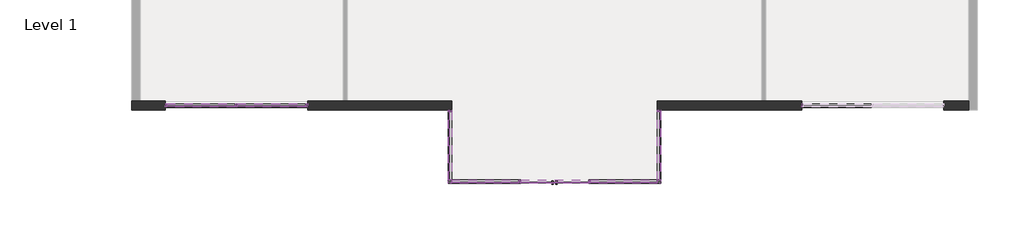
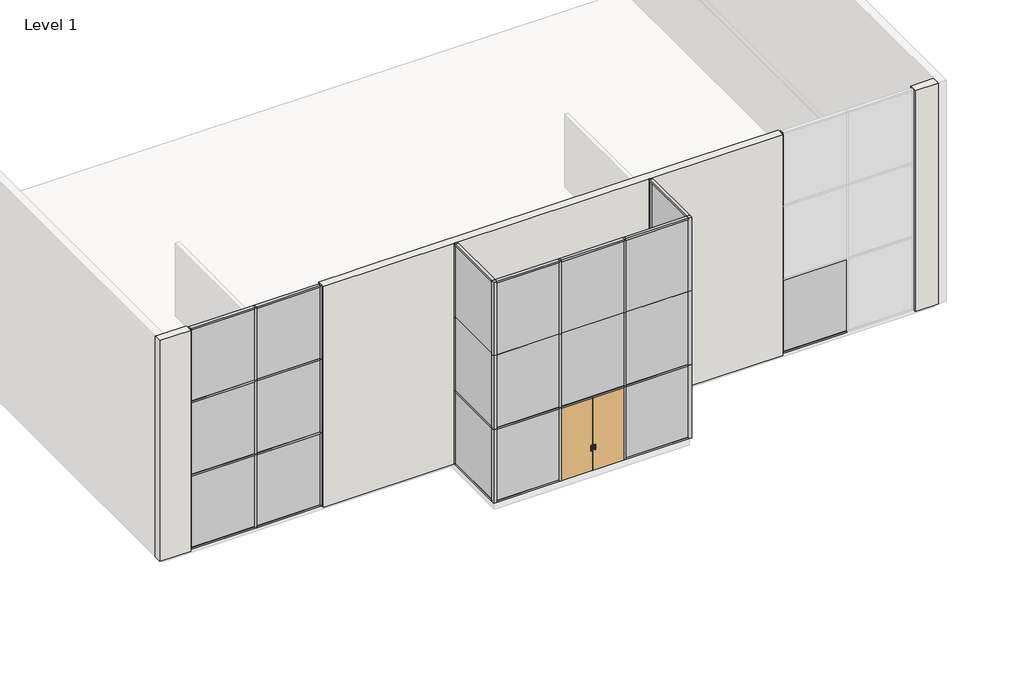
# One storey, part 1 of 3: 53 members, 21 plates, 1 door, 1 wall.
"""IFC4 building model written with IfcOpenShell, lengths in millimetres."""

from ifc_helpers import new_model, si_unit, origin, place, context, project, spatial, faceted_brep, transform, mapped, element, save
from components import m_curtain_wall_dbl_glass_m_curtain_wall_dbl_glass_65589565, member_092dde94, member_3b285806, member_887e70fb, member_3f395ae9, member_eaba9652, member_bd5c9510, member_6d1da0dd, member_11ed7e2d, member_605e1044, member_b6766b59, member_5ef46571, system_panel_glazed_dec8f576, system_panel_glazed_a2b5a2cd, system_panel_glazed_4b2e8b6a, system_panel_glazed_935986ee, system_panel_glazed_54eba105, system_panel_glazed_5724f4ed, system_panel_glazed_d0cb5eef, system_panel_glazed_25cc98ba, system_panel_glazed_d8e6d469, system_panel_glazed_b25d086d, system_panel_glazed_057324e0

model = new_model("IFC4")

# Units and contexts
model_context = context("Model", 3, world=origin())
ifc_project = project(units=[si_unit("LENGTHUNIT", "METRE", prefix="MILLI")], contexts=[model_context])

# Site, building, storey
site = spatial("IfcSite", under=ifc_project)
building = spatial("IfcBuilding", under=site)
storey = spatial("IfcBuildingStorey", under=building, Name="Level 1", Elevation=0.0)

# Door
placement = place(None, origin())
m_curtain_wall_dbl_glass_m_curtain_wall_dbl_glass_shape = m_curtain_wall_dbl_glass_m_curtain_wall_dbl_glass_65589565(model_context)
element("IfcDoor", 1, ObjectType="M_Curtain Wall Dbl Glass : M_Curtain Wall Dbl Glass", at=placement, inside=storey, context=model_context, shape_type="MappedRepresentation", body=[
    mapped(m_curtain_wall_dbl_glass_m_curtain_wall_dbl_glass_shape, transform((-3088.917382, -8357.3516396, 0.0), x_axis=(-1.0, 0.0, 0.0), y_axis=(0.0, -1.0, 0.0), z_axis=(0.0, 0.0, 1.0))),
])

# Members
member_shape = member_092dde94(model_context)
element("IfcMember", 2, ObjectType="Quad Corner Mullion : 5\" x 5\" Quad Corner", at=placement, inside=storey, context=model_context, shape_type="MappedRepresentation", body=[
    mapped(member_shape, transform((-6898.917382, -8357.3516396, 0.0), x_axis=(-1.0, 0.0, 0.0), y_axis=(0.0, 1.0, 0.0), z_axis=(0.0, 0.0, -1.0))),
])
element("IfcMember", 3, ObjectType="Quad Corner Mullion : 5\" x 5\" Quad Corner", at=placement, inside=storey, context=model_context, shape_type="MappedRepresentation", body=[
    mapped(member_shape, transform((721.082618, -8357.3516396, 3048.0), x_axis=(1.0, 0.0, 0.0), y_axis=(0.0, 1.0, 0.0), z_axis=(0.0, 0.0, 1.0))),
])
element("IfcMember", 4, ObjectType="Quad Corner Mullion : 5\" x 5\" Quad Corner", at=placement, inside=storey, context=model_context, shape_type="MappedRepresentation", body=[
    mapped(member_shape, transform((721.082618, -8357.3516396, 9144.0), x_axis=(1.0, 0.0, 0.0), y_axis=(0.0, 1.0, 0.0), z_axis=(0.0, 0.0, 1.0))),
])
element("IfcMember", 5, ObjectType="Quad Corner Mullion : 5\" x 5\" Quad Corner", at=placement, inside=storey, context=model_context, shape_type="MappedRepresentation", body=[
    mapped(member_shape, transform((-6898.917382, -8357.3516396, 3048.0), x_axis=(-1.0, 0.0, 0.0), y_axis=(0.0, 1.0, 0.0), z_axis=(0.0, 0.0, -1.0))),
])
element("IfcMember", 6, ObjectType="Quad Corner Mullion : 5\" x 5\" Quad Corner", at=placement, inside=storey, context=model_context, shape_type="MappedRepresentation", body=[
    mapped(member_shape, transform((721.082618, -8357.3516396, 6096.0), x_axis=(1.0, 0.0, 0.0), y_axis=(0.0, 1.0, 0.0), z_axis=(0.0, 0.0, 1.0))),
])
element("IfcMember", 7, ObjectType="Quad Corner Mullion : 5\" x 5\" Quad Corner", at=placement, inside=storey, context=model_context, shape_type="MappedRepresentation", body=[
    mapped(member_shape, transform((-6898.917382, -8357.3516396, 6096.0), x_axis=(-1.0, 0.0, 0.0), y_axis=(0.0, 1.0, 0.0), z_axis=(0.0, 0.0, -1.0))),
])
member_2_shape = member_3b285806(model_context)
element("IfcMember", 8, ObjectType="Rectangular Mullion : 2.5\" x 5\" rectangular", at=placement, inside=storey, context=model_context, shape_type="MappedRepresentation", body=[
    mapped(member_2_shape, transform((-6835.417382, -8357.3516396, 9144.0), x_axis=(0.0, 0.0, 1.0), y_axis=(0.0, 1.0, 0.0), z_axis=(-1.0, 0.0, 0.0))),
])
element("IfcMember", 9, ObjectType="Rectangular Mullion : 2.5\" x 5\" rectangular", at=placement, inside=storey, context=model_context, shape_type="MappedRepresentation", body=[
    mapped(member_2_shape, transform((-1787.1673821, -8357.3516396, 9144.0), x_axis=(0.0, 0.0, 1.0), y_axis=(0.0, 1.0, 0.0), z_axis=(-1.0, 0.0, 0.0))),
])
element("IfcMember", 10, ObjectType="Rectangular Mullion : 2.5\" x 5\" rectangular", at=placement, inside=storey, context=model_context, shape_type="MappedRepresentation", body=[
    mapped(member_2_shape, transform((657.582618, -8357.3516396, 0.0), x_axis=(0.0, 0.0, -1.0), y_axis=(0.0, 1.0, 0.0), z_axis=(1.0, 0.0, 0.0))),
])
element("IfcMember", 11, ObjectType="Rectangular Mullion : 2.5\" x 5\" rectangular", at=placement, inside=storey, context=model_context, shape_type="MappedRepresentation", body=[
    mapped(member_2_shape, transform((-4390.6673819, -8357.3516396, 0.0), x_axis=(0.0, 0.0, -1.0), y_axis=(0.0, 1.0, 0.0), z_axis=(1.0, 0.0, 0.0))),
])
member_3_shape = member_887e70fb(model_context)
element("IfcMember", 12, ObjectType="Rectangular Mullion : 2.5\" x 5\" rectangular", at=placement, inside=storey, context=model_context, shape_type="MappedRepresentation", body=[
    mapped(member_3_shape, transform((-4327.1673819, -8357.3516396, 9144.0), x_axis=(0.0, 0.0, 1.0), y_axis=(0.0, 1.0, 0.0), z_axis=(-1.0, 0.0, 0.0))),
])
member_4_shape = member_3f395ae9(model_context)
element("IfcMember", 13, ObjectType="Rectangular Mullion : 2.5\" x 5\" rectangular", at=placement, inside=storey, context=model_context, shape_type="MappedRepresentation", body=[
    mapped(member_4_shape, transform((-6898.917382, -5737.9766396, 0.0), x_axis=(0.0, 1.0, 0.0), y_axis=(1.0, 0.0, 0.0), z_axis=(0.0, 0.0, -1.0))),
])
element("IfcMember", 14, ObjectType="Rectangular Mullion : 2.5\" x 5\" rectangular", at=placement, inside=storey, context=model_context, shape_type="MappedRepresentation", body=[
    mapped(member_4_shape, transform((-17262.117382, -5582.4016396, 0.0), x_axis=(-1.0, 0.0, 0.0), y_axis=(0.0, 1.0, 0.0), z_axis=(0.0, 0.0, -1.0))),
])
element("IfcMember", 15, ObjectType="Rectangular Mullion : 2.5\" x 5\" rectangular", at=placement, inside=storey, context=model_context, shape_type="MappedRepresentation", body=[
    mapped(member_4_shape, transform((-17262.117382, -5582.4016396, 6096.0), x_axis=(-1.0, 0.0, 0.0), y_axis=(0.0, 1.0, 0.0), z_axis=(0.0, 0.0, -1.0))),
])
member_5_shape = member_eaba9652(model_context)
element("IfcMember", 16, ObjectType="Rectangular Mullion : 2.5\" x 5\" rectangular", at=placement, inside=storey, context=model_context, shape_type="MappedRepresentation", body=[
    mapped(member_5_shape, transform((-1818.9173821, -8357.3516396, 0.0), x_axis=(-1.0, 0.0, 0.0), y_axis=(0.0, 1.0, 0.0), z_axis=(0.0, 0.0, -1.0))),
])
element("IfcMember", 17, ObjectType="Rectangular Mullion : 2.5\" x 5\" rectangular", at=placement, inside=storey, context=model_context, shape_type="MappedRepresentation", body=[
    mapped(member_5_shape, transform((-4358.9173819, -8357.3516396, 0.0), x_axis=(-1.0, 0.0, 0.0), y_axis=(0.0, 1.0, 0.0), z_axis=(0.0, 0.0, -1.0))),
])
element("IfcMember", 18, ObjectType="Rectangular Mullion : 2.5\" x 5\" rectangular", at=placement, inside=storey, context=model_context, shape_type="MappedRepresentation", body=[
    mapped(member_5_shape, transform((-14671.317382, -5582.4016396, 0.0), x_axis=(-1.0, 0.0, 0.0), y_axis=(0.0, 1.0, 0.0), z_axis=(0.0, 0.0, -1.0))),
])
element("IfcMember", 19, ObjectType="Rectangular Mullion : 2.5\" x 5\" rectangular", at=placement, inside=storey, context=model_context, shape_type="MappedRepresentation", body=[
    mapped(member_5_shape, transform((-14671.317382, -5582.4016396, 6096.0), x_axis=(-1.0, 0.0, 0.0), y_axis=(0.0, 1.0, 0.0), z_axis=(0.0, 0.0, -1.0))),
])
member_6_shape = member_bd5c9510(model_context)
element("IfcMember", 20, ObjectType="Rectangular Mullion : 2.5\" x 5\" rectangular", at=placement, inside=storey, context=model_context, shape_type="MappedRepresentation", body=[
    mapped(member_6_shape, transform((-6835.417382, -8357.3516396, 3048.0), x_axis=(0.0, 0.0, 1.0), y_axis=(0.0, 1.0, 0.0), z_axis=(-1.0, 0.0, 0.0))),
])
element("IfcMember", 21, ObjectType="Rectangular Mullion : 2.5\" x 5\" rectangular", at=placement, inside=storey, context=model_context, shape_type="MappedRepresentation", body=[
    mapped(member_6_shape, transform((-1787.1673821, -8357.3516396, 3048.0), x_axis=(0.0, 0.0, 1.0), y_axis=(0.0, 1.0, 0.0), z_axis=(-1.0, 0.0, 0.0))),
])
member_7_shape = member_6d1da0dd(model_context)
element("IfcMember", 22, ObjectType="Rectangular Mullion : 2.5\" x 5\" rectangular", at=placement, inside=storey, context=model_context, shape_type="MappedRepresentation", body=[
    mapped(member_7_shape, transform((-4327.1673819, -8357.3516396, 3048.0), x_axis=(0.0, 0.0, 1.0), y_axis=(0.0, 1.0, 0.0), z_axis=(-1.0, 0.0, 0.0))),
])
element("IfcMember", 23, ObjectType="Rectangular Mullion : 2.5\" x 5\" rectangular", at=placement, inside=storey, context=model_context, shape_type="MappedRepresentation", body=[
    mapped(member_4_shape, transform((-12080.517382, -5582.4016396, 9144.0), x_axis=(1.0, 0.0, 0.0), y_axis=(0.0, 1.0, 0.0), z_axis=(0.0, 0.0, 1.0))),
])
element("IfcMember", 24, ObjectType="Rectangular Mullion : 2.5\" x 5\" rectangular", at=placement, inside=storey, context=model_context, shape_type="MappedRepresentation", body=[
    mapped(member_4_shape, transform((721.082618, -5737.9766396, 3048.0), x_axis=(0.0, 1.0, 0.0), y_axis=(-1.0, 0.0, 0.0), z_axis=(0.0, 0.0, 1.0))),
])
element("IfcMember", 25, ObjectType="Rectangular Mullion : 2.5\" x 5\" rectangular", at=placement, inside=storey, context=model_context, shape_type="MappedRepresentation", body=[
    mapped(member_4_shape, transform((-12080.517382, -5582.4016396, 3048.0), x_axis=(1.0, 0.0, 0.0), y_axis=(0.0, 1.0, 0.0), z_axis=(0.0, 0.0, 1.0))),
])
element("IfcMember", 26, ObjectType="Rectangular Mullion : 2.5\" x 5\" rectangular", at=placement, inside=storey, context=model_context, shape_type="MappedRepresentation", body=[
    mapped(member_4_shape, transform((5902.682618, -5582.4016396, 9144.0), x_axis=(-1.0, 0.0, 0.0), y_axis=(0.0, -1.0, 0.0), z_axis=(0.0, 0.0, 1.0))),
])
element("IfcMember", 27, ObjectType="Rectangular Mullion : 2.5\" x 5\" rectangular", at=placement, inside=storey, context=model_context, shape_type="MappedRepresentation", body=[
    mapped(member_4_shape, transform((5902.682618, -5582.4016396, 3048.0), x_axis=(-1.0, 0.0, 0.0), y_axis=(0.0, -1.0, 0.0), z_axis=(0.0, 0.0, 1.0))),
])
element("IfcMember", 28, ObjectType="Rectangular Mullion : 2.5\" x 5\" rectangular", at=placement, inside=storey, context=model_context, shape_type="MappedRepresentation", body=[
    mapped(member_4_shape, transform((5902.682618, -5582.4016396, 6096.0), x_axis=(-1.0, 0.0, 0.0), y_axis=(0.0, -1.0, 0.0), z_axis=(0.0, 0.0, 1.0))),
])
member_8_shape = member_11ed7e2d(model_context)
element("IfcMember", 29, ObjectType="Rectangular Mullion : 2.5\" x 5\" rectangular", at=placement, inside=storey, context=model_context, shape_type="MappedRepresentation", body=[
    mapped(member_8_shape, transform((-6898.917382, -5801.4766396, 9144.0), x_axis=(0.0, 0.0, 1.0), y_axis=(1.0, 0.0, 0.0), z_axis=(0.0, 1.0, 0.0))),
])
element("IfcMember", 30, ObjectType="Rectangular Mullion : 2.5\" x 5\" rectangular", at=placement, inside=storey, context=model_context, shape_type="MappedRepresentation", body=[
    mapped(member_8_shape, transform((721.082618, -8293.8516396, 9144.0), x_axis=(0.0, 0.0, 1.0), y_axis=(-1.0, 0.0, 0.0), z_axis=(0.0, -1.0, 0.0))),
])
element("IfcMember", 31, ObjectType="Rectangular Mullion : 2.5\" x 5\" rectangular", at=placement, inside=storey, context=model_context, shape_type="MappedRepresentation", body=[
    mapped(member_8_shape, transform((-6898.917382, -8293.8516396, 0.0), x_axis=(0.0, 0.0, -1.0), y_axis=(1.0, 0.0, 0.0), z_axis=(0.0, -1.0, 0.0))),
])
element("IfcMember", 32, ObjectType="Rectangular Mullion : 2.5\" x 5\" rectangular", at=placement, inside=storey, context=model_context, shape_type="MappedRepresentation", body=[
    mapped(member_8_shape, transform((721.082618, -5801.4766396, 0.0), x_axis=(0.0, 0.0, -1.0), y_axis=(-1.0, 0.0, 0.0), z_axis=(0.0, 1.0, 0.0))),
])
member_9_shape = member_605e1044(model_context)
element("IfcMember", 33, ObjectType="Rectangular Mullion : 2.5\" x 5\" rectangular", at=placement, inside=storey, context=model_context, shape_type="MappedRepresentation", body=[
    mapped(member_9_shape, transform((-6898.917382, -5801.4766396, 3048.0), x_axis=(0.0, 0.0, 1.0), y_axis=(1.0, 0.0, 0.0), z_axis=(0.0, 1.0, 0.0))),
])
element("IfcMember", 34, ObjectType="Rectangular Mullion : 2.5\" x 5\" rectangular", at=placement, inside=storey, context=model_context, shape_type="MappedRepresentation", body=[
    mapped(member_9_shape, transform((721.082618, -8293.8516396, 3048.0), x_axis=(0.0, 0.0, 1.0), y_axis=(-1.0, 0.0, 0.0), z_axis=(0.0, -1.0, 0.0))),
])
member_10_shape = member_b6766b59(model_context)
element("IfcMember", 35, ObjectType="Rectangular Mullion : 2.5\" x 5\" rectangular", at=placement, inside=storey, context=model_context, shape_type="MappedRepresentation", body=[
    mapped(member_10_shape, transform((-17198.617382, -5582.4016396, 9144.0), x_axis=(0.0, 0.0, 1.0), y_axis=(0.0, 1.0, 0.0), z_axis=(-1.0, 0.0, 0.0))),
])
element("IfcMember", 36, ObjectType="Rectangular Mullion : 2.5\" x 5\" rectangular", at=placement, inside=storey, context=model_context, shape_type="MappedRepresentation", body=[
    mapped(member_10_shape, transform((-14639.567382, -5582.4016396, 9144.0), x_axis=(0.0, 0.0, 1.0), y_axis=(0.0, 1.0, 0.0), z_axis=(-1.0, 0.0, 0.0))),
])
element("IfcMember", 37, ObjectType="Rectangular Mullion : 2.5\" x 5\" rectangular", at=placement, inside=storey, context=model_context, shape_type="MappedRepresentation", body=[
    mapped(member_10_shape, transform((-12144.017382, -5582.4016396, 0.0), x_axis=(0.0, 0.0, -1.0), y_axis=(0.0, 1.0, 0.0), z_axis=(1.0, 0.0, 0.0))),
])
element("IfcMember", 38, ObjectType="Rectangular Mullion : 2.5\" x 5\" rectangular", at=placement, inside=storey, context=model_context, shape_type="MappedRepresentation", body=[
    mapped(member_10_shape, transform((-14703.067382, -5582.4016396, 0.0), x_axis=(0.0, 0.0, -1.0), y_axis=(0.0, 1.0, 0.0), z_axis=(1.0, 0.0, 0.0))),
])
member_11_shape = member_5ef46571(model_context)
element("IfcMember", 39, ObjectType="Rectangular Mullion : 2.5\" x 5\" rectangular", at=placement, inside=storey, context=model_context, shape_type="MappedRepresentation", body=[
    mapped(member_11_shape, transform((-14639.567382, -5582.4016396, 3048.0), x_axis=(0.0, 0.0, 1.0), y_axis=(0.0, 1.0, 0.0), z_axis=(-1.0, 0.0, 0.0))),
])
element("IfcMember", 40, ObjectType="Rectangular Mullion : 2.5\" x 5\" rectangular", at=placement, inside=storey, context=model_context, shape_type="MappedRepresentation", body=[
    mapped(member_11_shape, transform((-17198.617382, -5582.4016396, 3048.0), x_axis=(0.0, 0.0, 1.0), y_axis=(0.0, 1.0, 0.0), z_axis=(-1.0, 0.0, 0.0))),
])
element("IfcMember", 41, ObjectType="Rectangular Mullion : 2.5\" x 5\" rectangular", at=placement, inside=storey, context=model_context, shape_type="MappedRepresentation", body=[
    mapped(member_11_shape, transform((-14639.567382, -5582.4016396, 6096.0), x_axis=(0.0, 0.0, 1.0), y_axis=(0.0, 1.0, 0.0), z_axis=(-1.0, 0.0, 0.0))),
])
element("IfcMember", 42, ObjectType="Rectangular Mullion : 2.5\" x 5\" rectangular", at=placement, inside=storey, context=model_context, shape_type="MappedRepresentation", body=[
    mapped(member_11_shape, transform((-17198.617382, -5582.4016396, 6096.0), x_axis=(0.0, 0.0, 1.0), y_axis=(0.0, 1.0, 0.0), z_axis=(-1.0, 0.0, 0.0))),
])
element("IfcMember", 43, ObjectType="Rectangular Mullion : 2.5\" x 5\" rectangular", at=placement, inside=storey, context=model_context, shape_type="MappedRepresentation", body=[
    mapped(member_5_shape, transform((-14671.317382, -5582.4016396, 3048.0), x_axis=(-1.0, 0.0, 0.0), y_axis=(0.0, 1.0, 0.0), z_axis=(0.0, 0.0, -1.0))),
])
element("IfcMember", 44, ObjectType="Rectangular Mullion : 2.5\" x 5\" rectangular", at=placement, inside=storey, context=model_context, shape_type="MappedRepresentation", body=[
    mapped(member_4_shape, transform((-17262.117382, -5582.4016396, 3048.0), x_axis=(-1.0, 0.0, 0.0), y_axis=(0.0, 1.0, 0.0), z_axis=(0.0, 0.0, -1.0))),
])
element("IfcMember", 45, ObjectType="Rectangular Mullion : 2.5\" x 5\" rectangular", at=placement, inside=storey, context=model_context, shape_type="MappedRepresentation", body=[
    mapped(member_4_shape, transform((-12080.517382, -5582.4016396, 6096.0), x_axis=(1.0, 0.0, 0.0), y_axis=(0.0, 1.0, 0.0), z_axis=(0.0, 0.0, 1.0))),
])
element("IfcMember", 46, ObjectType="Rectangular Mullion : 2.5\" x 5\" rectangular", at=placement, inside=storey, context=model_context, shape_type="MappedRepresentation", body=[
    mapped(member_10_shape, transform((5966.182618, -5582.4016396, 0.0), x_axis=(0.0, 0.0, -1.0), y_axis=(0.0, -1.0, 0.0), z_axis=(-1.0, 0.0, 0.0))),
])
element("IfcMember", 47, ObjectType="Rectangular Mullion : 2.5\" x 5\" rectangular", at=placement, inside=storey, context=model_context, shape_type="MappedRepresentation", body=[
    mapped(member_5_shape, transform((-1818.9173821, -8357.3516396, 3048.0), x_axis=(-1.0, 0.0, 0.0), y_axis=(0.0, 1.0, 0.0), z_axis=(0.0, 0.0, -1.0))),
])
element("IfcMember", 48, ObjectType="Rectangular Mullion : 2.5\" x 5\" rectangular", at=placement, inside=storey, context=model_context, shape_type="MappedRepresentation", body=[
    mapped(member_5_shape, transform((-4358.9173819, -8357.3516396, 3048.0), x_axis=(-1.0, 0.0, 0.0), y_axis=(0.0, 1.0, 0.0), z_axis=(0.0, 0.0, -1.0))),
])
element("IfcMember", 49, ObjectType="Rectangular Mullion : 2.5\" x 5\" rectangular", at=placement, inside=storey, context=model_context, shape_type="MappedRepresentation", body=[
    mapped(member_5_shape, transform((-1818.9173821, -8357.3516396, 6096.0), x_axis=(-1.0, 0.0, 0.0), y_axis=(0.0, 1.0, 0.0), z_axis=(0.0, 0.0, -1.0))),
])
element("IfcMember", 50, ObjectType="Rectangular Mullion : 2.5\" x 5\" rectangular", at=placement, inside=storey, context=model_context, shape_type="MappedRepresentation", body=[
    mapped(member_5_shape, transform((-4358.9173819, -8357.3516396, 6096.0), x_axis=(-1.0, 0.0, 0.0), y_axis=(0.0, 1.0, 0.0), z_axis=(0.0, 0.0, -1.0))),
])
element("IfcMember", 51, ObjectType="Rectangular Mullion : 2.5\" x 5\" rectangular", at=placement, inside=storey, context=model_context, shape_type="MappedRepresentation", body=[
    mapped(member_4_shape, transform((721.082618, -5737.9766396, 9144.0), x_axis=(0.0, 1.0, 0.0), y_axis=(-1.0, 0.0, 0.0), z_axis=(0.0, 0.0, 1.0))),
])
element("IfcMember", 52, ObjectType="Rectangular Mullion : 2.5\" x 5\" rectangular", at=placement, inside=storey, context=model_context, shape_type="MappedRepresentation", body=[
    mapped(member_4_shape, transform((-6898.917382, -5737.9766396, 3048.0), x_axis=(0.0, 1.0, 0.0), y_axis=(1.0, 0.0, 0.0), z_axis=(0.0, 0.0, -1.0))),
])
element("IfcMember", 53, ObjectType="Rectangular Mullion : 2.5\" x 5\" rectangular", at=placement, inside=storey, context=model_context, shape_type="MappedRepresentation", body=[
    mapped(member_4_shape, transform((721.082618, -5737.9766396, 6096.0), x_axis=(0.0, 1.0, 0.0), y_axis=(-1.0, 0.0, 0.0), z_axis=(0.0, 0.0, 1.0))),
])
element("IfcMember", 54, ObjectType="Rectangular Mullion : 2.5\" x 5\" rectangular", at=placement, inside=storey, context=model_context, shape_type="MappedRepresentation", body=[
    mapped(member_4_shape, transform((-6898.917382, -5737.9766396, 6096.0), x_axis=(0.0, 1.0, 0.0), y_axis=(1.0, 0.0, 0.0), z_axis=(0.0, 0.0, -1.0))),
])

# Plates
system_panel_glazed_shape = system_panel_glazed_dec8f576(model_context)
element("IfcPlate", 55, ObjectType="System Panel : Glazed", at=placement, inside=storey, context=model_context, shape_type="MappedRepresentation", body=[
    mapped(system_panel_glazed_shape, transform((-564.792382, -8357.3516396, 63.5), x_axis=(-1.0, 0.0, 0.0), y_axis=(0.0, -1.0, 0.0), z_axis=(0.0, 0.0, 1.0))),
])
element("IfcPlate", 56, ObjectType="System Panel : Glazed", at=placement, inside=storey, context=model_context, shape_type="MappedRepresentation", body=[
    mapped(system_panel_glazed_shape, transform((-5613.0423819, -8357.3516396, 63.5), x_axis=(-1.0, 0.0, 0.0), y_axis=(0.0, -1.0, 0.0), z_axis=(0.0, 0.0, 1.0))),
])
system_panel_glazed_2_shape = system_panel_glazed_a2b5a2cd(model_context)
element("IfcPlate", 57, ObjectType="System Panel : Glazed", at=placement, inside=storey, context=model_context, shape_type="MappedRepresentation", body=[
    mapped(system_panel_glazed_2_shape, transform((721.082618, -7047.6641396, 63.5), x_axis=(0.0, -1.0, 0.0), y_axis=(1.0, 0.0, 0.0), z_axis=(0.0, 0.0, 1.0))),
])
element("IfcPlate", 58, ObjectType="System Panel : Glazed", at=placement, inside=storey, context=model_context, shape_type="MappedRepresentation", body=[
    mapped(system_panel_glazed_2_shape, transform((-6898.917382, -7047.6641396, 63.5), x_axis=(0.0, 1.0, 0.0), y_axis=(-1.0, 0.0, 0.0), z_axis=(0.0, 0.0, 1.0))),
])
system_panel_glazed_3_shape = system_panel_glazed_4b2e8b6a(model_context)
element("IfcPlate", 59, ObjectType="System Panel : Glazed", at=placement, inside=storey, context=model_context, shape_type="MappedRepresentation", body=[
    mapped(system_panel_glazed_3_shape, transform((-13391.792382, -5582.4016396, 63.5), x_axis=(-1.0, 0.0, 0.0), y_axis=(0.0, -1.0, 0.0), z_axis=(0.0, 0.0, 1.0))),
])
element("IfcPlate", 60, ObjectType="System Panel : Glazed", at=placement, inside=storey, context=model_context, shape_type="MappedRepresentation", body=[
    mapped(system_panel_glazed_3_shape, transform((-15950.842382, -5582.4016396, 63.5), x_axis=(-1.0, 0.0, 0.0), y_axis=(0.0, -1.0, 0.0), z_axis=(0.0, 0.0, 1.0))),
])
element("IfcPlate", 61, ObjectType="System Panel : Glazed", at=placement, inside=storey, context=model_context, shape_type="MappedRepresentation", body=[
    mapped(system_panel_glazed_3_shape, transform((-13391.792382, -5582.4016396, 6127.75), x_axis=(-1.0, 0.0, 0.0), y_axis=(0.0, -1.0, 0.0), z_axis=(0.0, 0.0, 1.0))),
])
element("IfcPlate", 62, ObjectType="System Panel : Glazed", at=placement, inside=storey, context=model_context, shape_type="MappedRepresentation", body=[
    mapped(system_panel_glazed_3_shape, transform((-15950.842382, -5582.4016396, 6127.75), x_axis=(-1.0, 0.0, 0.0), y_axis=(0.0, -1.0, 0.0), z_axis=(0.0, 0.0, 1.0))),
])
system_panel_glazed_4_shape = system_panel_glazed_935986ee(model_context)
element("IfcPlate", 63, ObjectType="System Panel : Glazed", at=placement, inside=storey, context=model_context, shape_type="MappedRepresentation", body=[
    mapped(system_panel_glazed_4_shape, transform((-13391.792382, -5582.4016396, 3079.75), x_axis=(-1.0, 0.0, 0.0), y_axis=(0.0, -1.0, 0.0), z_axis=(0.0, 0.0, 1.0))),
])
element("IfcPlate", 64, ObjectType="System Panel : Glazed", at=placement, inside=storey, context=model_context, shape_type="MappedRepresentation", body=[
    mapped(system_panel_glazed_4_shape, transform((-15950.842382, -5582.4016396, 3079.75), x_axis=(-1.0, 0.0, 0.0), y_axis=(0.0, -1.0, 0.0), z_axis=(0.0, 0.0, 1.0))),
])
system_panel_glazed_5_shape = system_panel_glazed_54eba105(model_context)
element("IfcPlate", 65, ObjectType="System Panel : Glazed", at=placement, inside=storey, context=model_context, shape_type="MappedRepresentation", body=[
    mapped(system_panel_glazed_5_shape, transform((7213.957618, -5582.4016396, 63.5), x_axis=(1.0, 0.0, 0.0), y_axis=(0.0, 1.0, 0.0), z_axis=(0.0, 0.0, 1.0))),
])
system_panel_glazed_6_shape = system_panel_glazed_5724f4ed(model_context)
element("IfcPlate", 66, ObjectType="System Panel : Glazed", at=placement, inside=storey, context=model_context, shape_type="MappedRepresentation", body=[
    mapped(system_panel_glazed_6_shape, transform((-3088.917382, -8357.3516396, 3079.75), x_axis=(-1.0, 0.0, 0.0), y_axis=(0.0, -1.0, 0.0), z_axis=(0.0, 0.0, 1.0))),
])
system_panel_glazed_7_shape = system_panel_glazed_d0cb5eef(model_context)
element("IfcPlate", 67, ObjectType="System Panel : Glazed", at=placement, inside=storey, context=model_context, shape_type="MappedRepresentation", body=[
    mapped(system_panel_glazed_7_shape, transform((-564.792382, -8357.3516396, 3079.75), x_axis=(-1.0, 0.0, 0.0), y_axis=(0.0, -1.0, 0.0), z_axis=(0.0, 0.0, 1.0))),
])
element("IfcPlate", 68, ObjectType="System Panel : Glazed", at=placement, inside=storey, context=model_context, shape_type="MappedRepresentation", body=[
    mapped(system_panel_glazed_7_shape, transform((-5613.0423819, -8357.3516396, 3079.75), x_axis=(-1.0, 0.0, 0.0), y_axis=(0.0, -1.0, 0.0), z_axis=(0.0, 0.0, 1.0))),
])
system_panel_glazed_8_shape = system_panel_glazed_25cc98ba(model_context)
element("IfcPlate", 69, ObjectType="System Panel : Glazed", at=placement, inside=storey, context=model_context, shape_type="MappedRepresentation", body=[
    mapped(system_panel_glazed_8_shape, transform((-3088.917382, -8357.3516396, 6096.0), x_axis=(-1.0, 0.0, 0.0), y_axis=(0.0, -1.0, 0.0), z_axis=(0.0, 0.0, 1.0))),
])
system_panel_glazed_9_shape = system_panel_glazed_d8e6d469(model_context)
element("IfcPlate", 70, ObjectType="System Panel : Glazed", at=placement, inside=storey, context=model_context, shape_type="MappedRepresentation", body=[
    mapped(system_panel_glazed_9_shape, transform((721.082618, -7047.6641396, 3079.75), x_axis=(0.0, -1.0, 0.0), y_axis=(1.0, 0.0, 0.0), z_axis=(0.0, 0.0, 1.0))),
])
element("IfcPlate", 71, ObjectType="System Panel : Glazed", at=placement, inside=storey, context=model_context, shape_type="MappedRepresentation", body=[
    mapped(system_panel_glazed_9_shape, transform((-6898.917382, -7047.6641396, 3079.75), x_axis=(0.0, 1.0, 0.0), y_axis=(-1.0, 0.0, 0.0), z_axis=(0.0, 0.0, 1.0))),
])
system_panel_glazed_10_shape = system_panel_glazed_b25d086d(model_context)
element("IfcPlate", 72, ObjectType="System Panel : Glazed", at=placement, inside=storey, context=model_context, shape_type="MappedRepresentation", body=[
    mapped(system_panel_glazed_10_shape, transform((721.082618, -7047.6641396, 6096.0), x_axis=(0.0, -1.0, 0.0), y_axis=(1.0, 0.0, 0.0), z_axis=(0.0, 0.0, 1.0))),
])
element("IfcPlate", 73, ObjectType="System Panel : Glazed", at=placement, inside=storey, context=model_context, shape_type="MappedRepresentation", body=[
    mapped(system_panel_glazed_10_shape, transform((-6898.917382, -7047.6641396, 6096.0), x_axis=(0.0, 1.0, 0.0), y_axis=(-1.0, 0.0, 0.0), z_axis=(0.0, 0.0, 1.0))),
])
system_panel_glazed_11_shape = system_panel_glazed_057324e0(model_context)
element("IfcPlate", 74, ObjectType="System Panel : Glazed", at=placement, inside=storey, context=model_context, shape_type="MappedRepresentation", body=[
    mapped(system_panel_glazed_11_shape, transform((-564.792382, -8357.3516396, 6096.0), x_axis=(-1.0, 0.0, 0.0), y_axis=(0.0, -1.0, 0.0), z_axis=(0.0, 0.0, 1.0))),
])
element("IfcPlate", 75, ObjectType="System Panel : Glazed", at=placement, inside=storey, context=model_context, shape_type="MappedRepresentation", body=[
    mapped(system_panel_glazed_11_shape, transform((-5613.0423819, -8357.3516396, 6096.0), x_axis=(-1.0, 0.0, 0.0), y_axis=(0.0, -1.0, 0.0), z_axis=(0.0, 0.0, 1.0))),
])

# Wall
element("IfcWall", 76, ObjectType="Exterior - EIFS on Mtl. Stud", at=placement, inside=storey, context=model_context, shape_type="Brep", body=[
    faceted_brep([(-18484.492382, -5426.8266396, 0.0), (-18484.492382, -5426.8266396, 9144.0), (-18173.342382, -5426.8266396, 9144.0), (-17262.117382, -5426.8266396, 9144.0), (-17262.117382, -5426.8266396, 3048.0), (-18173.342382, -5426.8266396, 3048.0), (-18186.042382, -5426.8266396, 3048.0), (-18186.042382, -5426.8266396, 2774.95), (-17262.117382, -5426.8266396, 2774.95), (-17262.117382, -5426.8266396, 0.0), (-18173.342382, -5426.8266396, 0.0), (-18484.492382, -5737.9766396, 9144.0), (-18484.492382, -5737.9766396, 0.0), (-17262.117382, -5737.9766396, 0.0), (-17262.117382, -5737.9766396, 9144.0), (-18186.042382, -5439.5266396, 2774.95), (-17262.117382, -5439.5266396, 2774.95), (-17262.117382, -5439.5266396, 3048.0), (-18186.042382, -5439.5266396, 3048.0)], [[[0, 1, 2, 3, 4, 5, 6, 7, 8, 9, 10]], [[11, 12, 13, 14]], [[12, 0, 10, 9, 13]], [[1, 11, 14, 3, 2]], [[1, 0, 12, 11]], [[7, 15, 16, 8]], [[17, 18, 6, 5, 4]], [[15, 18, 17, 16]], [[18, 15, 7, 6]], [[14, 13, 9, 8, 16, 17, 4, 3]]]),
    faceted_brep([(657.582618, -5426.8266396, 6096.0), (-6835.417382, -5426.8266396, 6096.0), (-6835.417382, -5426.8266396, 0.0), (-10639.067382, -5426.8266396, 0.0), (-10778.767382, -5426.8266396, 0.0), (-12080.517382, -5426.8266396, 0.0), (-12080.517382, -5426.8266396, 2774.95), (-10708.917382, -5426.8266396, 2774.95), (-10708.917382, -5426.8266396, 3048.0), (-10778.767382, -5426.8266396, 3048.0), (-12080.517382, -5426.8266396, 3048.0), (-12080.517382, -5426.8266396, 9144.0), (-10778.767382, -5426.8266396, 9144.0), (-10639.067382, -5426.8266396, 9144.0), (4461.232618, -5426.8266396, 9144.0), (4600.932618, -5426.8266396, 9144.0), (5902.682618, -5426.8266396, 9144.0), (5902.682618, -5426.8266396, 3048.0), (4600.932618, -5426.8266396, 3048.0), (4531.082618, -5426.8266396, 3048.0), (4531.082618, -5426.8266396, 2774.95), (5902.682618, -5426.8266396, 2774.95), (5902.682618, -5426.8266396, 0.0), (4600.932618, -5426.8266396, 0.0), (4461.232618, -5426.8266396, 0.0), (657.582618, -5426.8266396, 0.0), (-6835.417382, -5737.9766396, 6096.0), (657.582618, -5737.9766396, 6096.0), (657.582618, -5737.9766396, 0.0), (5902.682618, -5737.9766396, 0.0), (5902.682618, -5737.9766396, 9144.0), (-12080.517382, -5737.9766396, 9144.0), (-12080.517382, -5737.9766396, 0.0), (-6835.417382, -5737.9766396, 0.0), (4531.082618, -5439.5266396, 2774.95), (5902.682618, -5439.5266396, 2774.95), (-12080.517382, -5439.5266396, 2774.95), (-10708.917382, -5439.5266396, 2774.95), (-10708.917382, -5439.5266396, 3048.0), (-12080.517382, -5439.5266396, 3048.0), (5902.682618, -5439.5266396, 3048.0), (4531.082618, -5439.5266396, 3048.0)], [[[0, 1, 2, 3, 4, 5, 6, 7, 8, 9, 10, 11, 12, 13, 14, 15, 16, 17, 18, 19, 20, 21, 22, 23, 24, 25]], [[26, 27, 28, 29, 30, 31, 32, 33]], [[28, 25, 24, 23, 22, 29]], [[2, 33, 32, 5, 4, 3]], [[30, 16, 15, 14, 13, 12, 11, 31]], [[0, 27, 26, 1]], [[27, 0, 25, 28]], [[1, 26, 33, 2]], [[20, 34, 35, 21]], [[36, 37, 7, 6]], [[8, 38, 39, 10, 9]], [[40, 41, 19, 18, 17]], [[34, 41, 40, 35]], [[38, 37, 36, 39]], [[41, 34, 20, 19]], [[37, 38, 8, 7]], [[30, 29, 22, 21, 35, 40, 17, 16]], [[32, 31, 11, 10, 39, 36, 6, 5]]]),
    faceted_brep([(11084.282618, -5426.8266396, 9144.0), (11995.507618, -5426.8266396, 9144.0), (11995.507618, -5426.8266396, 3048.0), (11084.282618, -5426.8266396, 3048.0), (11995.507618, -5426.8266396, 0.0), (11084.282618, -5426.8266396, 0.0), (11084.282618, -5426.8266396, 2774.95), (11995.507618, -5426.8266396, 2774.95), (11995.507618, -5737.9766396, 0.0), (11995.507618, -5737.9766396, 9144.0), (11084.282618, -5737.9766396, 9144.0), (11084.282618, -5737.9766396, 0.0), (11995.507618, -5439.5266396, 2774.95), (11995.507618, -5439.5266396, 3048.0), (11084.282618, -5439.5266396, 2774.95), (11084.282618, -5439.5266396, 3048.0)], [[[0, 1, 2, 3]], [[4, 5, 6, 7]], [[8, 9, 10, 11]], [[4, 8, 11, 5]], [[9, 1, 0, 10]], [[1, 9, 8, 4, 7, 12, 13, 2]], [[14, 12, 7, 6]], [[13, 15, 3, 2]], [[12, 14, 15, 13]], [[11, 10, 0, 3, 15, 14, 6, 5]]]),
])

save(model, "model.ifc")
